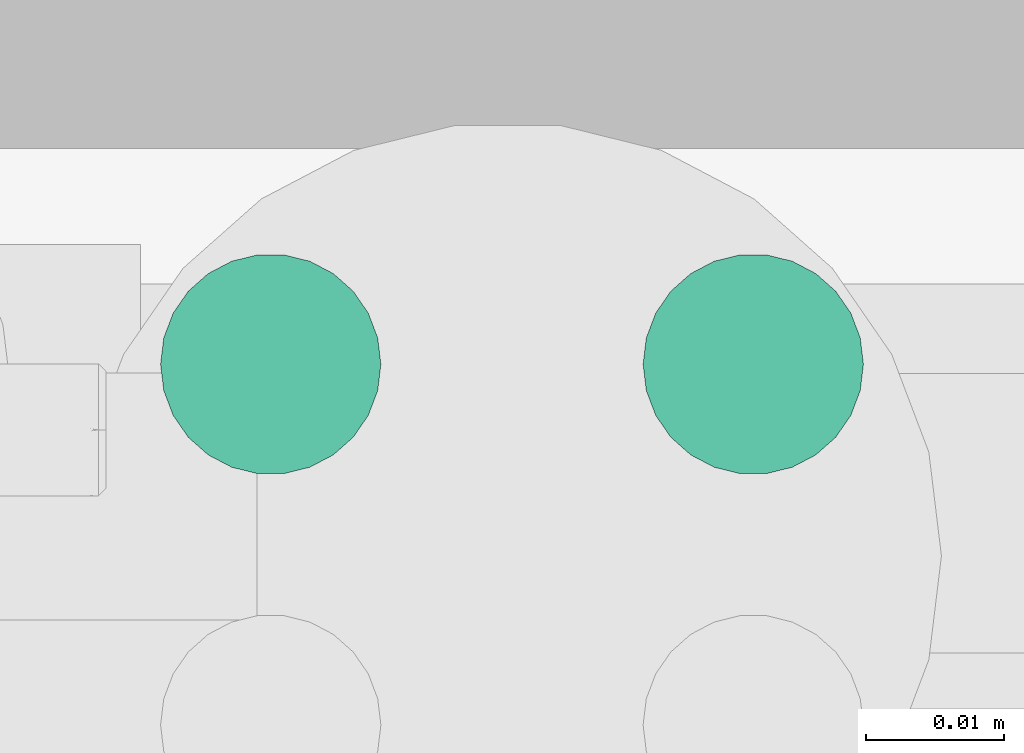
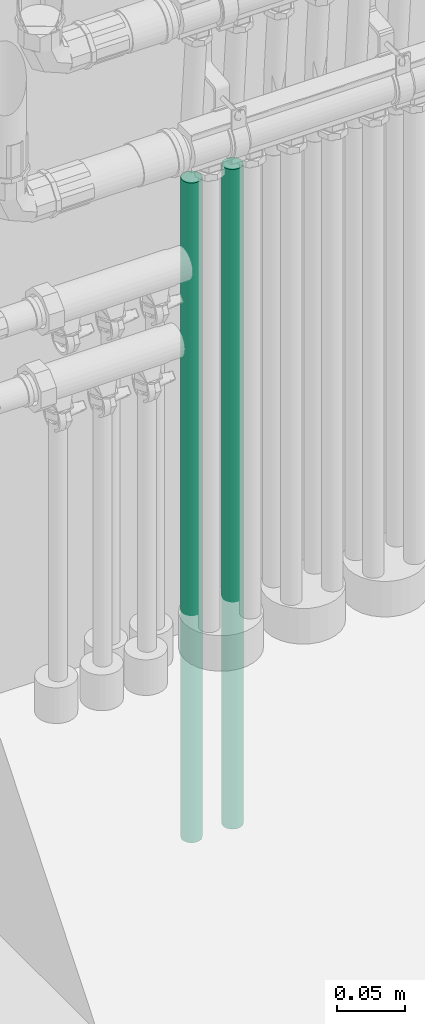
# One storey, part 20 of 32: 2 flow segments.
"""IFC2X3 building model written with IfcOpenShell, lengths in metres."""

from ifc_helpers import new_model, entity, si_unit, converted_unit, derived_unit, direction, frame, origin, origin_2d_with_axis, place, context, subcontext, project, spatial, circle, extrude, type_object, element, save


model = new_model("IFC2X3")

# Units and contexts
model_context = context("Model", 3, precision=1e-05, world=origin(), true_north=direction((6.123031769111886e-17, 1.0)))
body_context = subcontext(model_context, "Body", "Model", "MODEL_VIEW")
ifc_project = project(units=[si_unit("LENGTHUNIT", "METRE"), si_unit("AREAUNIT", "SQUARE_METRE"), si_unit("VOLUMEUNIT", "CUBIC_METRE"), converted_unit("PLANEANGLEUNIT", "DEGREE", entity("IfcPlaneAngleMeasure", 0.017453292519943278), si_unit("PLANEANGLEUNIT", "RADIAN"), dimensions=[0, 0, 0, 0, 0, 0, 0]), si_unit("MASSUNIT", "GRAM", prefix="KILO"), derived_unit("MASSDENSITYUNIT", [(si_unit("MASSUNIT", "GRAM", prefix="KILO"), 1), (si_unit("LENGTHUNIT", "METRE"), -3)]), derived_unit("IONCONCENTRATIONUNIT", [(si_unit("MASSUNIT", "GRAM", prefix="KILO"), 1), (si_unit("LENGTHUNIT", "METRE"), -3)]), derived_unit("MOMENTOFINERTIAUNIT", [(si_unit("LENGTHUNIT", "METRE"), 4)]), si_unit("TIMEUNIT", "SECOND"), si_unit("FREQUENCYUNIT", "HERTZ"), si_unit("THERMODYNAMICTEMPERATUREUNIT", "DEGREE_CELSIUS"), derived_unit("THERMALTRANSMITTANCEUNIT", [(si_unit("MASSUNIT", "GRAM", prefix="KILO"), 1), (si_unit("THERMODYNAMICTEMPERATUREUNIT", "KELVIN"), -1), (si_unit("TIMEUNIT", "SECOND"), -3)]), derived_unit("THERMALCONDUCTANCEUNIT", [(si_unit("MASSUNIT", "GRAM", prefix="KILO"), 1), (si_unit("THERMODYNAMICTEMPERATUREUNIT", "KELVIN"), -1), (si_unit("TIMEUNIT", "SECOND"), -3), (si_unit("LENGTHUNIT", "METRE"), 1)]), derived_unit("VOLUMETRICFLOWRATEUNIT", [(si_unit("LENGTHUNIT", "METRE", prefix="DECI"), 3), (si_unit("TIMEUNIT", "SECOND"), -1)]), derived_unit("MASSFLOWRATEUNIT", [(si_unit("MASSUNIT", "GRAM", prefix="KILO"), 1), (si_unit("TIMEUNIT", "SECOND"), -1)]), derived_unit("ROTATIONALFREQUENCYUNIT", [(si_unit("TIMEUNIT", "SECOND"), -1)]), si_unit("ELECTRICCURRENTUNIT", "AMPERE"), si_unit("ELECTRICVOLTAGEUNIT", "VOLT"), si_unit("POWERUNIT", "WATT"), si_unit("FORCEUNIT", "NEWTON", prefix="KILO"), si_unit("ILLUMINANCEUNIT", "LUX"), si_unit("LUMINOUSFLUXUNIT", "LUMEN"), si_unit("LUMINOUSINTENSITYUNIT", "CANDELA"), si_unit("ENERGYUNIT", "JOULE"), derived_unit("USERDEFINED", [(si_unit("MASSUNIT", "GRAM", prefix="KILO"), -1), (si_unit("LENGTHUNIT", "METRE"), -2), (si_unit("TIMEUNIT", "SECOND"), 3), (si_unit("LUMINOUSFLUXUNIT", "LUMEN"), 1)]), derived_unit("USERDEFINED", [(si_unit("MASSUNIT", "GRAM", prefix="KILO"), 1), (si_unit("TIMEUNIT", "SECOND"), -3), (si_unit("LENGTHUNIT", "METRE"), 3), (si_unit("ELECTRICCURRENTUNIT", "AMPERE"), -2)]), derived_unit("SOUNDPOWERUNIT", [(si_unit("MASSUNIT", "GRAM", prefix="KILO"), 1), (si_unit("TIMEUNIT", "SECOND"), -3), (si_unit("LENGTHUNIT", "METRE"), 2)]), derived_unit("SOUNDPRESSUREUNIT", [(si_unit("MASSUNIT", "GRAM", prefix="KILO"), 1), (si_unit("LENGTHUNIT", "METRE"), -1), (si_unit("TIMEUNIT", "SECOND"), -2)]), derived_unit("LINEARVELOCITYUNIT", [(si_unit("LENGTHUNIT", "METRE"), 1), (si_unit("TIMEUNIT", "SECOND"), -1)]), si_unit("PRESSUREUNIT", "PASCAL"), derived_unit("USERDEFINED", [(si_unit("MASSUNIT", "GRAM", prefix="KILO"), 1), (si_unit("LENGTHUNIT", "METRE"), -2), (si_unit("TIMEUNIT", "SECOND"), -2)]), derived_unit("LINEARFORCEUNIT", [(si_unit("MASSUNIT", "GRAM", prefix="KILO"), 1), (si_unit("TIMEUNIT", "SECOND"), -2)]), derived_unit("PLANARFORCEUNIT", [(si_unit("MASSUNIT", "GRAM", prefix="KILO"), 1), (si_unit("LENGTHUNIT", "METRE"), -1), (si_unit("TIMEUNIT", "SECOND"), -2)]), derived_unit("SPECIFICHEATCAPACITYUNIT", [(si_unit("THERMODYNAMICTEMPERATUREUNIT", "KELVIN"), -1), (si_unit("LENGTHUNIT", "METRE"), 2), (si_unit("TIMEUNIT", "SECOND"), -2)]), derived_unit("HEATFLUXDENSITYUNIT", [(si_unit("MASSUNIT", "GRAM", prefix="KILO"), 1), (si_unit("TIMEUNIT", "SECOND"), -3)]), derived_unit("HEATINGVALUEUNIT", [(si_unit("LENGTHUNIT", "METRE"), 2), (si_unit("TIMEUNIT", "SECOND"), -2)]), derived_unit("VAPORPERMEABILITYUNIT", [(si_unit("LENGTHUNIT", "METRE"), -1), (si_unit("TIMEUNIT", "SECOND"), 1)]), derived_unit("DYNAMICVISCOSITYUNIT", [(si_unit("MASSUNIT", "GRAM", prefix="KILO"), 1), (si_unit("TIMEUNIT", "SECOND"), -1), (si_unit("LENGTHUNIT", "METRE"), -1)]), derived_unit("THERMALEXPANSIONCOEFFICIENTUNIT", [(si_unit("THERMODYNAMICTEMPERATUREUNIT", "KELVIN"), -1)]), derived_unit("MODULUSOFELASTICITYUNIT", [(si_unit("MASSUNIT", "GRAM", prefix="KILO"), 1), (si_unit("LENGTHUNIT", "METRE"), -1), (si_unit("TIMEUNIT", "SECOND"), -2)]), derived_unit("ISOTHERMALMOISTURECAPACITYUNIT", [(si_unit("MASSUNIT", "GRAM", prefix="KILO"), -1), (si_unit("LENGTHUNIT", "METRE"), 3)]), derived_unit("MOISTUREDIFFUSIVITYUNIT", [(si_unit("TIMEUNIT", "SECOND"), -1), (si_unit("LENGTHUNIT", "METRE"), 2)]), derived_unit("MASSPERLENGTHUNIT", [(si_unit("MASSUNIT", "GRAM", prefix="KILO"), 1), (si_unit("LENGTHUNIT", "METRE"), -1)]), derived_unit("THERMALRESISTANCEUNIT", [(si_unit("MASSUNIT", "GRAM", prefix="KILO"), -1), (si_unit("TIMEUNIT", "SECOND"), 3), (si_unit("THERMODYNAMICTEMPERATUREUNIT", "KELVIN"), 1)]), derived_unit("ACCELERATIONUNIT", [(si_unit("LENGTHUNIT", "METRE"), 1), (si_unit("TIMEUNIT", "SECOND"), -2)]), derived_unit("ANGULARVELOCITYUNIT", [(si_unit("TIMEUNIT", "SECOND"), -1), (si_unit("PLANEANGLEUNIT", "RADIAN"), 1)]), derived_unit("LINEARSTIFFNESSUNIT", [(si_unit("MASSUNIT", "GRAM", prefix="KILO"), 1), (si_unit("TIMEUNIT", "SECOND"), -2)]), derived_unit("WARPINGCONSTANTUNIT", [(si_unit("LENGTHUNIT", "METRE"), 6)]), derived_unit("LINEARMOMENTUNIT", [(si_unit("MASSUNIT", "GRAM", prefix="KILO"), 1), (si_unit("LENGTHUNIT", "METRE"), 1), (si_unit("TIMEUNIT", "SECOND"), -2)]), derived_unit("TORQUEUNIT", [(si_unit("MASSUNIT", "GRAM", prefix="KILO"), 1), (si_unit("LENGTHUNIT", "METRE"), 2), (si_unit("TIMEUNIT", "SECOND"), -2)])], contexts=[model_context])

# Site, building, storey
site_placement = place(None, origin())
site = spatial("IfcSite", under=ifc_project, at=site_placement, Name="Default", CompositionType="ELEMENT")
building_placement = place(site_placement, origin())
building = spatial("IfcBuilding", under=site, at=building_placement, CompositionType="ELEMENT")
storey_placement = place(building_placement, origin())
storey = spatial("IfcBuildingStorey", under=building, at=storey_placement, Name="Niveau 0", CompositionType="ELEMENT", Elevation=-1.949160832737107e-14)

# Flow segments
pipe_segment_type = type_object("IfcPipeSegmentType", Name="Canalisation:PER Rouge", PredefinedType="NOTDEFINED")
flow_segment_1_placement = place(storey_placement, origin())
element("IfcFlowSegment", 1, at=flow_segment_1_placement, inside=storey, type_object=pipe_segment_type, Name="Canalisation:PER Rouge", ObjectType="Canalisation:PER Rouge", context=body_context, shape_type="SweptSolid", body=[
    extrude(circle(Radius=0.008, at=origin_2d_with_axis()), frame((-13.759217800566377, 2.852865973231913, -0.17415641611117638)), (0.0, 0.0, 1.0), 0.5956062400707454),
])
flow_segment_2_placement = place(storey_placement, origin())
element("IfcFlowSegment", 2, at=flow_segment_2_placement, inside=storey, type_object=pipe_segment_type, Name="Canalisation:PER Rouge", ObjectType="Canalisation:PER Rouge", context=body_context, shape_type="SweptSolid", body=[
    extrude(circle(Radius=0.008, at=origin_2d_with_axis()), frame((-13.794260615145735, 2.852865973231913, -0.17415641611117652)), (0.0, 0.0, 1.0), 0.5956062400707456),
])

save(model, "model.ifc")
